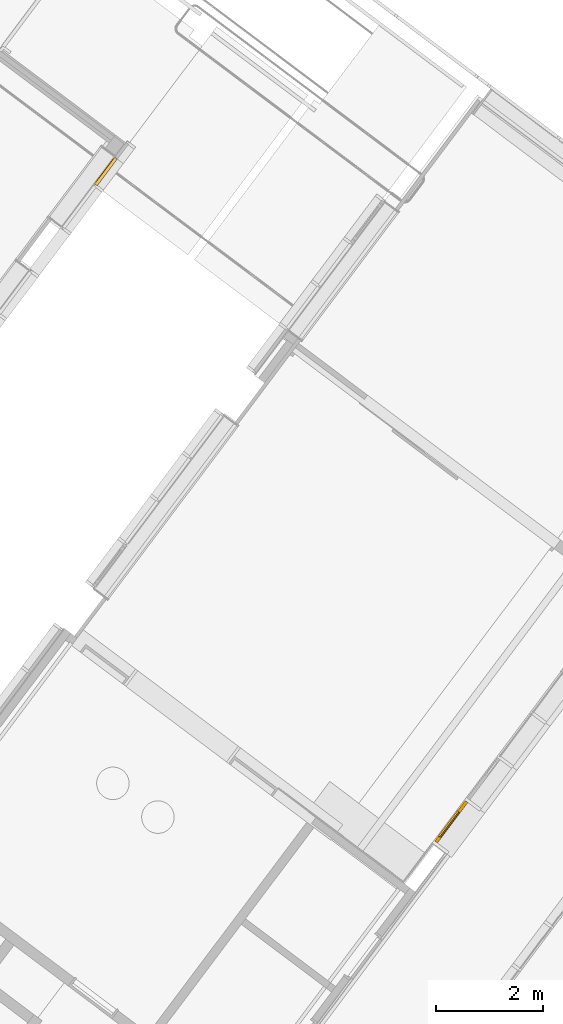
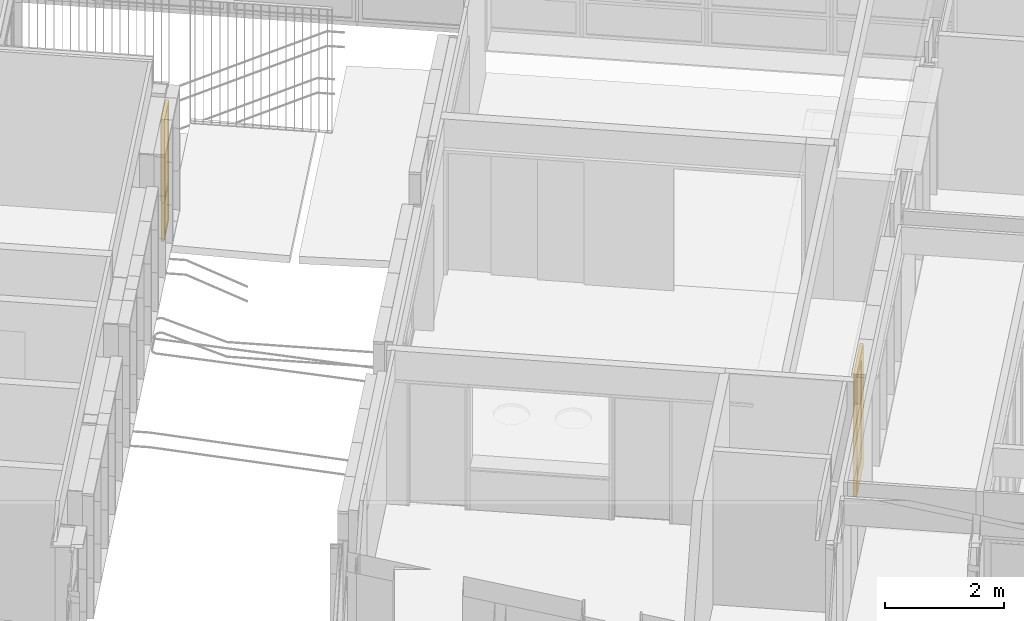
# One storey, part 229 of 243: 2 windows, 1 door, 2 elements without a shape of their own.
"""IFC2X3 building model written with IfcOpenShell, lengths in metres."""

from ifc_helpers import new_model, entity, si_unit, converted_unit, derived_unit, direction, frame, origin, place, context, subcontext, project, spatial, faceted_brep, source, transform, mapped, material, material_list, type_object, type_shapes, element, aggregate, save


model = new_model("IFC2X3")

# Units and contexts
model_context = context("Model", 3, precision=1e-05, world=origin(), true_north=direction((6.123031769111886e-17, 1.0)))
body_context = subcontext(model_context, "Body", "Model", "MODEL_VIEW")
ifc_project = project(units=[si_unit("LENGTHUNIT", "METRE"), si_unit("AREAUNIT", "SQUARE_METRE"), si_unit("VOLUMEUNIT", "CUBIC_METRE"), converted_unit("PLANEANGLEUNIT", "DEGREE", entity("IfcRatioMeasure", 0.017453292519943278), si_unit("PLANEANGLEUNIT", "RADIAN"), dimensions=[0, 0, 0, 0, 0, 0, 0]), si_unit("MASSUNIT", "GRAM", prefix="KILO"), derived_unit("MASSDENSITYUNIT", [(si_unit("MASSUNIT", "GRAM", prefix="KILO"), 1), (si_unit("LENGTHUNIT", "METRE"), -3)]), derived_unit("IONCONCENTRATIONUNIT", [(si_unit("MASSUNIT", "GRAM", prefix="KILO"), 1), (si_unit("LENGTHUNIT", "METRE"), -3)]), derived_unit("MOMENTOFINERTIAUNIT", [(si_unit("LENGTHUNIT", "METRE"), 4)]), si_unit("TIMEUNIT", "SECOND"), si_unit("FREQUENCYUNIT", "HERTZ"), si_unit("THERMODYNAMICTEMPERATUREUNIT", "DEGREE_CELSIUS"), derived_unit("THERMALTRANSMITTANCEUNIT", [(si_unit("MASSUNIT", "GRAM", prefix="KILO"), 1), (si_unit("THERMODYNAMICTEMPERATUREUNIT", "KELVIN"), -1), (si_unit("TIMEUNIT", "SECOND"), -3)]), derived_unit("THERMALCONDUCTANCEUNIT", [(si_unit("MASSUNIT", "GRAM", prefix="KILO"), 1), (si_unit("THERMODYNAMICTEMPERATUREUNIT", "KELVIN"), -1), (si_unit("TIMEUNIT", "SECOND"), -3), (si_unit("LENGTHUNIT", "METRE"), 1)]), derived_unit("VOLUMETRICFLOWRATEUNIT", [(si_unit("LENGTHUNIT", "METRE"), 3), (si_unit("TIMEUNIT", "SECOND"), -1)]), derived_unit("MASSFLOWRATEUNIT", [(si_unit("MASSUNIT", "GRAM", prefix="KILO"), 1), (si_unit("TIMEUNIT", "SECOND"), -1)]), derived_unit("ROTATIONALFREQUENCYUNIT", [(si_unit("TIMEUNIT", "SECOND"), -1)]), si_unit("ELECTRICCURRENTUNIT", "AMPERE"), si_unit("ELECTRICVOLTAGEUNIT", "VOLT"), si_unit("POWERUNIT", "WATT"), si_unit("FORCEUNIT", "NEWTON", prefix="KILO"), si_unit("ILLUMINANCEUNIT", "LUX"), si_unit("LUMINOUSFLUXUNIT", "LUMEN"), si_unit("LUMINOUSINTENSITYUNIT", "CANDELA"), derived_unit("USERDEFINED", [(si_unit("MASSUNIT", "GRAM", prefix="KILO"), -1), (si_unit("LENGTHUNIT", "METRE"), -2), (si_unit("TIMEUNIT", "SECOND"), 3), (si_unit("LUMINOUSFLUXUNIT", "LUMEN"), 1)]), derived_unit("USERDEFINED", [(si_unit("MASSUNIT", "GRAM", prefix="KILO"), 1), (si_unit("TIMEUNIT", "SECOND"), -3), (si_unit("LENGTHUNIT", "METRE"), 3), (si_unit("ELECTRICCURRENTUNIT", "AMPERE"), -2)]), derived_unit("SOUNDPOWERUNIT", [(si_unit("MASSUNIT", "GRAM", prefix="KILO"), 1), (si_unit("TIMEUNIT", "SECOND"), -3), (si_unit("LENGTHUNIT", "METRE"), 2)]), derived_unit("SOUNDPRESSUREUNIT", [(si_unit("MASSUNIT", "GRAM", prefix="KILO"), 1), (si_unit("LENGTHUNIT", "METRE"), -1), (si_unit("TIMEUNIT", "SECOND"), -2)]), derived_unit("LINEARVELOCITYUNIT", [(si_unit("LENGTHUNIT", "METRE"), 1), (si_unit("TIMEUNIT", "SECOND"), -1)]), si_unit("PRESSUREUNIT", "PASCAL"), derived_unit("USERDEFINED", [(si_unit("MASSUNIT", "GRAM", prefix="KILO"), 1), (si_unit("LENGTHUNIT", "METRE"), -2), (si_unit("TIMEUNIT", "SECOND"), -2)]), derived_unit("LINEARFORCEUNIT", [(si_unit("MASSUNIT", "GRAM", prefix="KILO"), 1), (si_unit("TIMEUNIT", "SECOND"), -2)]), derived_unit("PLANARFORCEUNIT", [(si_unit("MASSUNIT", "GRAM", prefix="KILO"), 1), (si_unit("LENGTHUNIT", "METRE"), -1), (si_unit("TIMEUNIT", "SECOND"), -2)]), derived_unit("SPECIFICHEATCAPACITYUNIT", [(si_unit("THERMODYNAMICTEMPERATUREUNIT", "KELVIN"), -1), (si_unit("LENGTHUNIT", "METRE"), 2), (si_unit("TIMEUNIT", "SECOND"), -2)]), derived_unit("HEATINGVALUEUNIT", [(si_unit("LENGTHUNIT", "METRE"), 2), (si_unit("TIMEUNIT", "SECOND"), -2)]), derived_unit("VAPORPERMEABILITYUNIT", [(si_unit("LENGTHUNIT", "METRE"), -1), (si_unit("TIMEUNIT", "SECOND"), 1)]), derived_unit("DYNAMICVISCOSITYUNIT", [(si_unit("MASSUNIT", "GRAM", prefix="KILO"), 1), (si_unit("TIMEUNIT", "SECOND"), -1), (si_unit("LENGTHUNIT", "METRE"), -1)]), derived_unit("THERMALEXPANSIONCOEFFICIENTUNIT", [(si_unit("THERMODYNAMICTEMPERATUREUNIT", "KELVIN"), -1)]), derived_unit("MODULUSOFELASTICITYUNIT", [(si_unit("MASSUNIT", "GRAM", prefix="KILO"), 1), (si_unit("LENGTHUNIT", "METRE"), -1), (si_unit("TIMEUNIT", "SECOND"), -2)]), derived_unit("ISOTHERMALMOISTURECAPACITYUNIT", [(si_unit("LENGTHUNIT", "METRE"), 3), (si_unit("MASSUNIT", "GRAM", prefix="KILO"), -1)]), derived_unit("MOISTUREDIFFUSIVITYUNIT", [(si_unit("TIMEUNIT", "SECOND"), -1), (si_unit("LENGTHUNIT", "METRE"), 2)])], contexts=[model_context])

# Site, building, storey
site_placement = place(None, frame((0.0, 0.0, 235.0), z_axis=(0.0, 0.0, 1.0), x_axis=(-0.7996477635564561, 0.6004693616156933, 0.0)))
site = spatial("IfcSite", under=ifc_project, at=site_placement, Name="Default", CompositionType="ELEMENT")
building_placement = place(site_placement, origin())
building = spatial("IfcBuilding", under=site, at=building_placement, CompositionType="ELEMENT")
storey_placement = place(building_placement, origin())
storey = spatial("IfcBuildingStorey", under=building, at=storey_placement, Name="P0- Escola", CompositionType="ELEMENT", Elevation=0.0)

# Curtain wall, door
curtain_wall_type_1 = type_object("IfcCurtainWallType", Name="Muro cortina:MC- INT- a4", PredefinedType="NOTDEFINED")
curtain_wall_1_placement = place(storey_placement, origin())
curtain_wall_1 = element("IfcCurtainWall", 1, at=curtain_wall_1_placement, inside=storey, type_object=curtain_wall_type_1, Name="Muro cortina:MC- INT- a4", ObjectType="Muro cortina:MC- INT- a4")
ifc_material_1 = material(Name="_Fusta massisa- T1")
ifc_material_2 = material(Name="_Vidre")
ifc_material_list_1 = material_list([ifc_material_1, ifc_material_2])
door_style = type_object("IfcDoorStyle", Name="MC- Fusta- conjunt porta:MC- Fusta- conjunt Porta aules", ConstructionType="NOTDEFINED", OperationType="NOTDEFINED", ParameterTakesPrecedence=False, Sizeable=False, material=ifc_material_list_1)
shared_shape_1 = source(origin(), body_context, "Body", "Brep", [
    faceted_brep([(-0.24625045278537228, -0.024999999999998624, 2.3799999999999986), (-0.24625045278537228, 0.005000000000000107, 2.3799999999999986), (-0.24625045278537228, 0.005000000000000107, 0.3299999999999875), (-0.24625045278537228, -0.024999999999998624, 0.3299999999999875), (0.37125045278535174, 0.005000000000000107, 0.3299999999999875), (0.37125045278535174, -0.024999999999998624, 0.3299999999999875), (0.37125045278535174, 0.005000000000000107, 2.3799999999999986), (0.37125045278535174, -0.024999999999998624, 2.3799999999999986), (-0.23125045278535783, 0.005000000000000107, 2.3650000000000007), (-0.23125045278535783, 0.005000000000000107, 0.34499999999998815), (0.35625045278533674, 0.005000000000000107, 0.34499999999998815), (0.35625045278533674, 0.005000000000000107, 2.3650000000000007), (-0.23125045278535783, -0.024999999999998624, 2.3650000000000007), (0.35625045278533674, -0.024999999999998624, 2.3650000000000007), (0.35625045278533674, -0.024999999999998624, 0.34499999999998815), (-0.23125045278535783, -0.024999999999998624, 0.34499999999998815)], [[[0, 1, 2, 3]], [[3, 2, 4, 5]], [[5, 4, 6, 7]], [[8, 9, 10, 11], [1, 6, 4, 2]], [[12, 13, 14, 15], [0, 3, 5, 7]], [[15, 9, 8, 12]], [[14, 10, 9, 15]], [[13, 11, 10, 14]], [[7, 6, 1, 0]], [[12, 8, 11, 13]]], outer=[[True], [True], [True], [False, True], [False, True], [True], [True], [True], [True], [True]]),
    faceted_brep([(-0.44125045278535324, 0.039999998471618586, 0.0), (0.4412504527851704, 0.039999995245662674, 0.0), (0.4412504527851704, 0.009999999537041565, 0.0), (0.45625045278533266, 0.009999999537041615, 0.0), (0.45625045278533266, -0.0199999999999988, 0.0), (-0.45625045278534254, -0.019999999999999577, 0.0), (-0.45625045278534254, 0.009999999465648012, 0.0), (-0.44125045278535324, 0.009999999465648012, 0.0), (-0.45625045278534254, -0.019999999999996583, 2.4899999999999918), (0.45625045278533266, -0.019999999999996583, 2.4899999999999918), (-0.24625045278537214, -0.01999999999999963, 0.3300000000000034), (-0.24625045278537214, -0.019999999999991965, 2.3799999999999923), (0.3712504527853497, -0.0199999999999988, 2.3799999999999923), (0.3712504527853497, -0.01999999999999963, 0.3300000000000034), (-0.4562504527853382, 0.009999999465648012, 2.4899999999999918), (0.45625045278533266, 0.009999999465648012, 2.4899999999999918), (-0.44125045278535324, 0.03999999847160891, 2.4749999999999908), (-0.44125045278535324, 0.009999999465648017, 2.4749999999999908), (0.4412504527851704, 0.009999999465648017, 2.4749999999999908), (0.4412504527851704, 0.03999999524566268, 2.4749999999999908), (0.35625045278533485, 0.03999999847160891, 0.3450000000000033), (0.35625045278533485, 0.03999999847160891, 2.364999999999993), (-0.23125045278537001, 0.03999999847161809, 2.364999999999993), (-0.23125045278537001, 0.03999999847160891, 0.3450000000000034), (-0.23125045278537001, 0.025000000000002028, 0.3450000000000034), (0.35625045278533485, 0.025000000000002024, 0.3450000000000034), (-0.23125045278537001, 0.025000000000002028, 2.364999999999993), (0.35625045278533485, 0.024999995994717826, 2.364999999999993), (0.3712504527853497, 0.025000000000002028, 0.3300000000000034), (0.3712504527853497, 0.025000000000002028, 2.3799999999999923), (-0.24625045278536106, 0.025000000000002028, 2.3799999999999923), (-0.24625045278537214, 0.025000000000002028, 0.3300000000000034), (-0.24625045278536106, 0.02499999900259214, 0.3300000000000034), (-0.24625045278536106, 0.02499999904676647, 2.3799999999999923), (0.35625045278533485, 0.03999999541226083, 2.364999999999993), (-0.23125045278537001, 0.02499999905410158, 2.364999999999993), (0.3712504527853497, 0.024999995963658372, 2.3799999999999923)], [[[0, 1, 2, 3, 4, 5, 6, 7]], [[8, 5, 4, 9], [10, 11, 12, 13]], [[8, 14, 6, 5]], [[15, 9, 4, 3]], [[16, 0, 7, 17]], [[14, 15, 3, 2, 18, 17, 7, 6]], [[18, 2, 1, 19]], [[20, 21, 22, 23], [16, 19, 1, 0]], [[23, 24, 25, 20]], [[23, 22, 26, 24]], [[25, 27, 21, 20]], [[24, 26, 27, 25], [28, 29, 30, 31]], [[13, 28, 32, 10]], [[31, 33, 11, 10]], [[13, 12, 29, 28]], [[9, 15, 14, 8]], [[17, 18, 19, 16]], [[34, 27, 35, 22]], [[11, 30, 36, 12]]], outer=[[True], [True, False], [True], [True], [True], [True], [True], [False, True], [True], [True], [True], [False, True], [True], [True], [True], [True], [True], [True], [True]]),
    faceted_brep([(0.3712504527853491, 0.024999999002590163, 0.3300000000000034), (0.3712504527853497, 0.005000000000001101, 0.3300000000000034), (-0.2462504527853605, 0.005000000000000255, 0.3300000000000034), (-0.2462504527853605, 0.024999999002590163, 0.3300000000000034), (0.3712504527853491, 0.024999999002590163, 2.380000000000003), (-0.2462504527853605, 0.024999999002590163, 2.380000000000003), (-0.2462504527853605, 0.005000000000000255, 2.380000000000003), (0.3712504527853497, 0.005000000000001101, 2.380000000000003)], [[[0, 1, 2, 3]], [[4, 0, 3, 5]], [[5, 3, 2, 6]], [[6, 2, 1, 7]], [[7, 1, 0, 4]], [[4, 5, 6, 7]]]),
    faceted_brep([(-0.46625045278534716, -0.01999999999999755, 0.0), (-0.46625045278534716, -0.015999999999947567, 0.0), (-0.4712504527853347, -0.015999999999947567, 0.0), (-0.4712504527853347, 0.03600000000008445, 0.0), (-0.46625045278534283, 0.03600000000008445, 0.0), (-0.46625045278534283, 0.0400000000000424, 0.0), (-0.44125045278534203, 0.0400000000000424, 0.0), (-0.44125045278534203, 0.010000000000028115, 0.0), (-0.45625045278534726, 0.010000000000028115, 0.0), (-0.45625045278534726, -0.01999999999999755, 0.0), (-0.4562504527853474, -0.01999999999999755, 2.4900000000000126), (0.4562504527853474, -0.01999999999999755, 2.4900000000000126), (0.4562504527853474, -0.01999999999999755, 0.0), (0.4662504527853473, -0.01999999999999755, 0.0), (0.4662504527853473, -0.01999999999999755, 2.5000000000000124), (-0.466250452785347, -0.01999999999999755, 2.500000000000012), (-0.4562504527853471, 0.010000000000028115, 2.4900000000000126), (-0.4412504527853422, 0.010000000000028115, 2.4750000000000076), (0.4412504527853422, 0.010000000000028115, 2.4750000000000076), (0.4412504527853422, 0.010000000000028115, 0.0), (0.4562504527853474, 0.010000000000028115, 0.0), (0.4562504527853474, 0.010000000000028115, 2.4900000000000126), (-0.4412504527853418, 0.0400000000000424, 2.4750000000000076), (-0.466250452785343, 0.0400000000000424, 2.5000000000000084), (0.466250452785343, 0.0400000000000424, 2.5000000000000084), (0.466250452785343, 0.0400000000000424, 0.0), (0.4412504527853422, 0.0400000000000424, 0.0), (0.4412504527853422, 0.0400000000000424, 2.4750000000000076), (-0.46625045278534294, 0.03600000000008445, 2.5000000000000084), (-0.4712504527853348, 0.03600000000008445, 2.5050000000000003), (0.4712504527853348, 0.03600000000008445, 2.5050000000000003), (0.4712504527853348, 0.03600000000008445, 0.0), (0.466250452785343, 0.03600000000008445, 0.0), (0.4662504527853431, 0.03600000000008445, 2.5000000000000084), (-0.47125045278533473, -0.015999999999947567, 2.5050000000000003), (-0.4662504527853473, -0.015999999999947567, 2.5000000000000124), (0.4662504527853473, -0.015999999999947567, 2.5000000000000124), (0.4662504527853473, -0.015999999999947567, 0.0), (0.4712504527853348, -0.015999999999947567, 0.0), (0.47125045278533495, -0.015999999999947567, 2.5050000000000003)], [[[0, 1, 2, 3, 4, 5, 6, 7, 8, 9]], [[9, 10, 11, 12, 13, 14, 15, 0]], [[8, 16, 10, 9]], [[7, 17, 18, 19, 20, 21, 16, 8]], [[6, 22, 17, 7]], [[5, 23, 24, 25, 26, 27, 22, 6]], [[4, 28, 23, 5]], [[3, 29, 30, 31, 32, 33, 28, 4]], [[2, 34, 29, 3]], [[1, 35, 36, 37, 38, 39, 34, 2]], [[0, 15, 35, 1]], [[14, 13, 37, 36]], [[13, 12, 20, 19, 26, 25, 32, 31, 38, 37]], [[21, 20, 12, 11]], [[27, 26, 19, 18]], [[33, 32, 25, 24]], [[39, 38, 31, 30]], [[16, 21, 11, 10]], [[22, 27, 18, 17]], [[28, 33, 24, 23]], [[34, 39, 30, 29]], [[15, 14, 36, 35]]]),
])
type_shapes(door_style, [shared_shape_1])
door_placement = place(curtain_wall_1_placement, frame((15.955147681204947, -30.913941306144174, 0.0), z_axis=(0.0, 0.0, 1.0), x_axis=(0.0, 1.0, 0.0)))
door = element("IfcDoor", 2, at=door_placement, type_object=door_style, material=ifc_material_list_1, Name="MC- Fusta- conjunt porta:MC- Fusta- conjunt Porta aules", ObjectType="MC- Fusta- conjunt porta:MC- Fusta- conjunt Porta aules", OverallHeight=2.5050000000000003, OverallWidth=0.9425009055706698, context=body_context, shape_type="MappedRepresentation", body=[
    mapped(shared_shape_1, transform((0.0, 0.0, 0.0), scale=1.0)),
])
aggregate(curtain_wall_1, [door])

# Curtain wall, windows
curtain_wall_type_2 = type_object("IfcCurtainWallType", Name="Muro cortina:MC- EXT- MC2", PredefinedType="NOTDEFINED")
curtain_wall_2_placement = place(storey_placement, origin())
curtain_wall_2 = element("IfcCurtainWall", 3, at=curtain_wall_2_placement, inside=storey, type_object=curtain_wall_type_2, Name="Muro cortina:MC- EXT- MC2", ObjectType="Muro cortina:MC- EXT- MC2")
ifc_material_3 = material(Name="_Alumini- T1- Perfil")
ifc_material_list_2 = material_list([ifc_material_2, ifc_material_3])
window_style_1 = type_object("IfcWindowStyle", Name="MC- Alu- Conjunt vidre fix- 62x60 cm:MC- Alu- Conjunt vidre fix- 62x60 cm", ConstructionType="NOTDEFINED", OperationType="NOTDEFINED", ParameterTakesPrecedence=False, Sizeable=False, material=ifc_material_list_2)
shared_shape_2 = source(origin(), body_context, "Body", "Brep", [
    faceted_brep([(0.26332520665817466, -0.007600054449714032, 0.048806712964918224), (0.26332520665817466, -0.03160022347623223, 0.048806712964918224), (-0.26332520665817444, -0.03160022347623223, 0.048806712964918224), (-0.26332520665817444, -0.007600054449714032, 0.048806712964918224), (0.26332520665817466, -0.007600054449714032, 0.7387000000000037), (-0.26332520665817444, -0.007600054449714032, 0.7387000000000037), (-0.26332520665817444, -0.03160022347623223, 0.7387000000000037), (0.26332520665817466, -0.03160022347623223, 0.7387000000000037)], [[[0, 1, 2, 3]], [[4, 0, 3, 5]], [[5, 3, 2, 6]], [[6, 2, 1, 7]], [[7, 1, 0, 4]], [[4, 5, 6, 7]]]),
    faceted_brep([(0.3121319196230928, -0.05999999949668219, 0.7877000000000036), (0.3121319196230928, -0.05999999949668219, 0.0), (0.3121319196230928, 0.0, 0.0), (0.3121319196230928, 0.0, 0.7877000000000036), (-0.3121319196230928, 0.0, 0.7877000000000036), (-0.3121319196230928, 0.0, 0.0), (0.24932510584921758, 0.0, 0.7248931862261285), (-0.24932510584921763, 0.0, 0.7248931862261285), (-0.24932510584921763, 0.0, 0.06280681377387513), (0.24932510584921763, 0.0, 0.06280681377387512), (-0.3121319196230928, -0.05999999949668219, 0.0), (-0.3121319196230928, -0.05999999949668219, 0.7877000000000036), (-0.24932795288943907, -0.05999999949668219, 0.72489603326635), (0.24932795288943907, -0.05999999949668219, 0.72489603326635), (0.24932795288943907, -0.05999999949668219, 0.0628039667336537), (-0.24932795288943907, -0.05999999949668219, 0.0628039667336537), (0.24932795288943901, -0.03160022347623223, 0.7248960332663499), (0.24932795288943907, -0.03160022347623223, 0.0628039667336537), (-0.24932795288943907, -0.03160022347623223, 0.0628039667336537), (-0.24932795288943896, -0.03160022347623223, 0.7248960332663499), (-0.2633252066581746, -0.03160022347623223, 0.7388932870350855), (0.2633252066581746, -0.03160022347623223, 0.7388932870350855), (0.2633252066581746, -0.03160022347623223, 0.048806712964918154), (-0.2633252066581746, -0.03160022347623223, 0.04880671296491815), (0.2633252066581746, -0.007600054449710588, 0.7388932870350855), (0.2633252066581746, -0.007600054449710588, 0.04880671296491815), (-0.2633252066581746, -0.007600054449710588, 0.048806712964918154), (-0.2633252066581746, -0.007600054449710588, 0.7388932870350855), (-0.24932510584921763, -0.007600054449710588, 0.7248931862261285), (0.24932510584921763, -0.007600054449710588, 0.7248931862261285), (0.24932510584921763, -0.007600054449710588, 0.06280681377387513), (-0.24932510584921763, -0.007600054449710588, 0.06280681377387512)], [[[0, 1, 2, 3]], [[4, 3, 2, 5], [6, 7, 8, 9]], [[1, 10, 5, 2]], [[0, 11, 10, 1], [12, 13, 14, 15]], [[16, 17, 14, 13]], [[17, 18, 15, 14]], [[16, 19, 18, 17], [20, 21, 22, 23]], [[24, 25, 22, 21]], [[25, 26, 23, 22]], [[24, 27, 26, 25], [28, 29, 30, 31]], [[6, 9, 30, 29]], [[9, 8, 31, 30]], [[10, 11, 4, 5]], [[18, 19, 12, 15]], [[26, 27, 20, 23]], [[8, 7, 28, 31]], [[11, 0, 3, 4]], [[19, 16, 13, 12]], [[27, 24, 21, 20]], [[7, 6, 29, 28]]], outer=[[True], [True, False], [True], [True, False], [True], [True], [False, True], [True], [True], [True, False], [True], [True], [True], [True], [True], [True], [True], [True], [True], [True]]),
])
type_shapes(window_style_1, [shared_shape_2])
window_1_placement = place(curtain_wall_2_placement, frame((28.345147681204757, -36.7415598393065, 0.03229999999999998), z_axis=(0.0, 0.0, 1.0), x_axis=(0.0, 1.0, 0.0)))
window_1 = element("IfcWindow", 4, at=window_1_placement, type_object=window_style_1, material=ifc_material_list_2, Name="MC- Alu- Conjunt vidre fix- 62x60 cm:MC- Alu- Conjunt vidre fix- 62x60 cm", ObjectType="MC- Alu- Conjunt vidre fix- 62x60 cm:MC- Alu- Conjunt vidre fix- 62x60 cm", OverallHeight=0.7877000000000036, OverallWidth=0.6242638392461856, context=body_context, shape_type="MappedRepresentation", body=[
    mapped(shared_shape_2, transform((0.0, 0.0, 0.0), scale=1.0)),
])
window_style_2 = type_object("IfcWindowStyle", Name="MC- Alu- Conjunt finestra basculant- 68x68 cm:MC- Alu- Conjunt finestra basculant- 68x68 cm", ConstructionType="NOTDEFINED", OperationType="NOTDEFINED", ParameterTakesPrecedence=False, Sizeable=False, material=ifc_material_list_2)
shared_shape_3 = source(origin(), body_context, "Body", "Brep", [
    faceted_brep([(0.2600436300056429, -0.0355983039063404, 0.051999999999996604), (-0.2600436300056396, -0.03559830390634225, 0.051999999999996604), (-0.2600436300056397, -0.01159813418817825, 0.051999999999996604), (0.26004363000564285, -0.011598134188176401, 0.051999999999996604), (0.2600436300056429, -0.0355983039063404, 1.6315527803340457), (0.26004363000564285, -0.011598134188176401, 1.6315527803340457), (-0.2600436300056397, -0.01159813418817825, 1.6315527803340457), (-0.2600436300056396, -0.03559830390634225, 1.6315527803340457)], [[[0, 1, 2, 3]], [[4, 0, 3, 5]], [[5, 3, 2, 6]], [[6, 2, 1, 7]], [[7, 1, 0, 4]], [[4, 5, 6, 7]]]),
    faceted_brep([(-0.2443428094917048, -0.009998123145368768, 1.615851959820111), (-0.2443428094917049, -0.009998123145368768, 0.06789804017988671), (-0.2443428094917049, -0.007998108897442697, 0.06789804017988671), (-0.2443428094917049, -0.007998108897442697, 1.6158519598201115), (-0.2732408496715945, -0.0079981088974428, 1.644750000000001), (0.2732408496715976, -0.007998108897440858, 1.644750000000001), (0.2732408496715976, -0.007998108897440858, 0.03899999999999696), (-0.2732408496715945, -0.0079981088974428, 0.03899999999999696), (0.244342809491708, -0.00799810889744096, 1.6158519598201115), (0.244342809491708, -0.00799810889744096, 0.06789804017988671), (0.244342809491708, -0.009998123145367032, 0.06789804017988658), (0.24434280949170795, -0.009998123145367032, 1.615851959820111), (0.26004363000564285, -0.009998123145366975, 1.6315527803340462), (-0.2600436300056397, -0.009998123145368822, 1.6315527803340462), (-0.2600436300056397, -0.009998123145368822, 0.05219721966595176), (0.26004363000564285, -0.009998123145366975, 0.05219721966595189), (-0.2600436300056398, -0.040799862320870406, 1.6315527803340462), (-0.2600436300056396, -0.040799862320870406, 0.05219721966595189), (0.26004363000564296, -0.04079986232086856, 0.05219721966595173), (0.2600436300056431, -0.04079986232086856, 1.6315527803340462), (0.2443428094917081, -0.04079986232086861, 1.6158519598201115), (-0.24434280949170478, -0.04079986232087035, 1.6158519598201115), (-0.24434280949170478, -0.04079986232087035, 0.06789804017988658), (0.2443428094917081, -0.04079986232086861, 0.06789804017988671), (-0.2443428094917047, -0.06800005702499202, 1.6158519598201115), (-0.2443428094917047, -0.06800005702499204, 0.06789804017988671), (0.24434280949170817, -0.0680000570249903, 0.06789804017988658), (0.2443428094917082, -0.06800005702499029, 1.6158519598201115), (0.29074481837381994, -0.06800005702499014, 1.662253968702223), (-0.2907448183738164, -0.0680000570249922, 1.662253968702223), (-0.2907448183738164, -0.0680000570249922, 0.021496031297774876), (0.29074481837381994, -0.06800005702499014, 0.021496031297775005), (-0.2907448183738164, -0.06450003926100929, 1.662253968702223), (-0.2907448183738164, -0.06450003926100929, 0.021496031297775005), (0.29074481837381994, -0.06450003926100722, 0.021496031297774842), (0.29074481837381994, -0.06450003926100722, 1.662253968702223), (0.27324084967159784, -0.0645000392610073, 1.644750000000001), (-0.2732408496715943, -0.06450003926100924, 1.644750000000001), (-0.2732408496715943, -0.06450003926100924, 0.03899999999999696), (0.27324084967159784, -0.0645000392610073, 0.03899999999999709)], [[[0, 1, 2, 3]], [[4, 5, 6, 7], [8, 3, 2, 9]], [[1, 10, 9, 2]], [[0, 11, 10, 1], [12, 13, 14, 15]], [[16, 17, 14, 13]], [[17, 18, 15, 14]], [[16, 19, 18, 17], [20, 21, 22, 23]], [[24, 25, 22, 21]], [[25, 26, 23, 22]], [[24, 27, 26, 25], [28, 29, 30, 31]], [[32, 33, 30, 29]], [[33, 34, 31, 30]], [[32, 35, 34, 33], [36, 37, 38, 39]], [[4, 7, 38, 37]], [[7, 6, 39, 38]], [[10, 11, 8, 9]], [[18, 19, 12, 15]], [[26, 27, 20, 23]], [[34, 35, 28, 31]], [[6, 5, 36, 39]], [[11, 0, 3, 8]], [[19, 16, 13, 12]], [[27, 24, 21, 20]], [[35, 32, 29, 28]], [[5, 4, 37, 36]]], outer=[[True], [True, False], [True], [False, True], [True], [True], [True, False], [True], [True], [False, True], [True], [True], [True, False], [True], [True], [True], [True], [True], [True], [True], [True], [True], [True], [True], [True]]),
    faceted_brep([(0.24932510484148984, 0.0, 1.6209431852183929), (0.24932510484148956, 0.0, 0.06280681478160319), (0.24932510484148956, -0.0040000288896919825, 0.06280681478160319), (0.24932510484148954, -0.0040000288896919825, 1.6209431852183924), (-0.24932510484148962, -0.0040000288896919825, 1.6209431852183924), (-0.24932510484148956, -0.0040000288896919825, 0.06280681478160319), (0.28473172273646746, -0.0040000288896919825, 1.6563498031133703), (-0.28473172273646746, -0.0040000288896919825, 1.6563498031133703), (-0.28473172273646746, -0.0040000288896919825, 0.02740019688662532), (0.28473172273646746, -0.0040000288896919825, 0.027400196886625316), (-0.24932510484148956, 0.0, 0.06280681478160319), (-0.24932510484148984, 0.0, 1.6209431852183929), (-0.3121319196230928, 0.0, 1.6837499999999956), (0.3121319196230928, 0.0, 1.6837499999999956), (0.3121319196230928, 0.0, 0.0), (-0.3121319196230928, 0.0, 0.0), (0.3121319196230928, -0.05999999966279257, 1.6837499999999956), (0.3121319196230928, -0.05999999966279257, 0.0), (-0.3121319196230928, -0.05999999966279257, 0.0), (-0.3121319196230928, -0.05999999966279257, 1.6837499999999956), (-0.28473172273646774, -0.05999999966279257, 1.6563498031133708), (0.28473172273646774, -0.05999999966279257, 1.6563498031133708), (0.28473172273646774, -0.05999999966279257, 0.02740019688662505), (-0.28473172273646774, -0.05999999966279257, 0.027400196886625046)], [[[0, 1, 2, 3]], [[4, 3, 2, 5], [6, 7, 8, 9]], [[1, 10, 5, 2]], [[0, 11, 10, 1], [12, 13, 14, 15]], [[16, 17, 14, 13]], [[17, 18, 15, 14]], [[16, 19, 18, 17], [20, 21, 22, 23]], [[6, 9, 22, 21]], [[9, 8, 23, 22]], [[10, 11, 4, 5]], [[18, 19, 12, 15]], [[8, 7, 20, 23]], [[11, 0, 3, 4]], [[19, 16, 13, 12]], [[7, 6, 21, 20]]], outer=[[True], [False, True], [True], [False, True], [True], [True], [True, False], [True], [True], [True], [True], [True], [True], [True], [True]]),
])
type_shapes(window_style_2, [shared_shape_3])
window_2_placement = place(curtain_wall_2_placement, frame((28.345147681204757, -36.7415598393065, 0.8200000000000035), z_axis=(0.0, 0.0, 1.0), x_axis=(0.0, 1.0, 0.0)))
window_2 = element("IfcWindow", 5, at=window_2_placement, type_object=window_style_2, material=ifc_material_list_2, Name="MC- Alu- Conjunt finestra basculant- 68x68 cm:MC- Alu- Conjunt finestra basculant- 68x68 cm", ObjectType="MC- Alu- Conjunt finestra basculant- 68x68 cm:MC- Alu- Conjunt finestra basculant- 68x68 cm", OverallHeight=1.6837499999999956, OverallWidth=0.6242638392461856, context=body_context, shape_type="MappedRepresentation", body=[
    mapped(shared_shape_3, transform((0.0, 0.0, 0.0), scale=1.0)),
])
aggregate(curtain_wall_2, [window_1, window_2])

save(model, "model.ifc")
